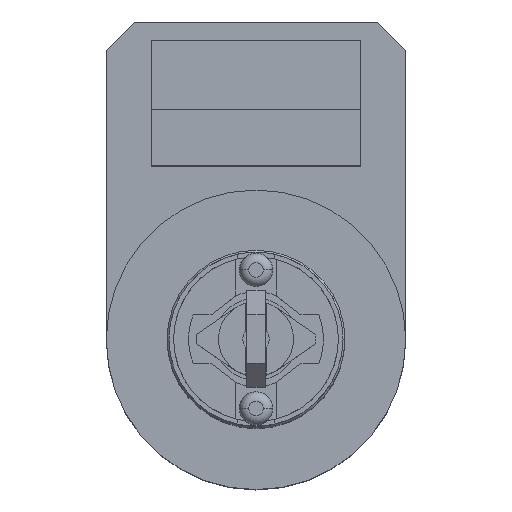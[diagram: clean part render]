
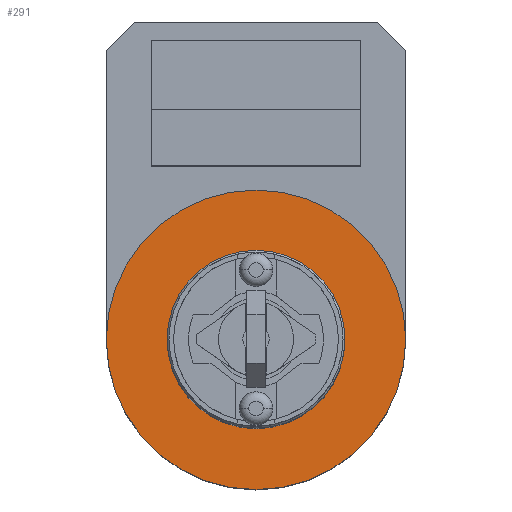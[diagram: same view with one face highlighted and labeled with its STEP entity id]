
A CAD part, top view. The second image highlights one B-rep face of the part: STEP entity #291.
In plain terms, the highlighted planar face has unit normal (0, 0, 1).
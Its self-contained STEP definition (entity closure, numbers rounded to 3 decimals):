
#47 = ORIENTED_EDGE ( 'NONE', *, *, #1140, .T. ) ;
#51 = FACE_OUTER_BOUND ( 'NONE', #381, .T. ) ;
#109 = DIRECTION ( 'NONE',  ( -1., 0., 0. ) ) ;
#162 = CARTESIAN_POINT ( 'NONE',  ( 0., 0., 10.9 ) ) ;
#228 = DIRECTION ( 'NONE',  ( -1., 0., 0. ) ) ;
#258 = CARTESIAN_POINT ( 'NONE',  ( 0., 0., 10.9 ) ) ;
#291 = ADVANCED_FACE ( 'NONE', ( #51, #1902 ), #3467, .F. ) ;
#381 = EDGE_LOOP ( 'NONE', ( #1550, #1818 ) ) ;
#523 = DIRECTION ( 'NONE',  ( 0., 0., -1. ) ) ;
#545 = CIRCLE ( 'NONE', #3211, 4.75 ) ;
#903 = VERTEX_POINT ( 'NONE', #3505 ) ;
#950 = CIRCLE ( 'NONE', #2946, 8. ) ;
#979 = EDGE_LOOP ( 'NONE', ( #47, #3787 ) ) ;
#1140 = EDGE_CURVE ( 'NONE', #1346, #903, #2446, .T. ) ;
#1197 = CARTESIAN_POINT ( 'NONE',  ( 0., 0., 10.9 ) ) ;
#1346 = VERTEX_POINT ( 'NONE', #1701 ) ;
#1412 = DIRECTION ( 'NONE',  ( 0., 0., -1. ) ) ;
#1420 = DIRECTION ( 'NONE',  ( -1., 0., 0. ) ) ;
#1511 = EDGE_CURVE ( 'NONE', #1676, #2901, #2451, .T. ) ;
#1512 = AXIS2_PLACEMENT_3D ( 'NONE', #2434, #3015, #109 ) ;
#1550 = ORIENTED_EDGE ( 'NONE', *, *, #1511, .F. ) ;
#1663 = EDGE_CURVE ( 'NONE', #903, #1346, #545, .T. ) ;
#1676 = VERTEX_POINT ( 'NONE', #2914 ) ;
#1701 = CARTESIAN_POINT ( 'NONE',  ( -4.75, 0., 10.9 ) ) ;
#1727 = DIRECTION ( 'NONE',  ( -1., 0., 0. ) ) ;
#1740 = CARTESIAN_POINT ( 'NONE',  ( 0., 8., 10.9 ) ) ;
#1818 = ORIENTED_EDGE ( 'NONE', *, *, #3257, .F. ) ;
#1902 = FACE_BOUND ( 'NONE', #979, .T. ) ;
#2102 = CARTESIAN_POINT ( 'NONE',  ( 8., 0., 10.9 ) ) ;
#2177 = DIRECTION ( 'NONE',  ( -1., 0., 0. ) ) ;
#2199 = DIRECTION ( 'NONE',  ( 0., 0., -1. ) ) ;
#2385 = AXIS2_PLACEMENT_3D ( 'NONE', #162, #2199, #2177 ) ;
#2434 = CARTESIAN_POINT ( 'NONE',  ( 0., 0., 10.9 ) ) ;
#2437 = AXIS2_PLACEMENT_3D ( 'NONE', #1740, #3799, #228 ) ;
#2446 = CIRCLE ( 'NONE', #1512, 4.75 ) ;
#2451 = CIRCLE ( 'NONE', #2385, 8. ) ;
#2901 = VERTEX_POINT ( 'NONE', #2102 ) ;
#2914 = CARTESIAN_POINT ( 'NONE',  ( -8., 0., 10.9 ) ) ;
#2946 = AXIS2_PLACEMENT_3D ( 'NONE', #1197, #1412, #1727 ) ;
#3015 = DIRECTION ( 'NONE',  ( 0., 0., -1. ) ) ;
#3211 = AXIS2_PLACEMENT_3D ( 'NONE', #258, #523, #1420 ) ;
#3257 = EDGE_CURVE ( 'NONE', #2901, #1676, #950, .T. ) ;
#3467 = PLANE ( 'NONE',  #2437 ) ;
#3505 = CARTESIAN_POINT ( 'NONE',  ( 4.75, 0., 10.9 ) ) ;
#3787 = ORIENTED_EDGE ( 'NONE', *, *, #1663, .T. ) ;
#3799 = DIRECTION ( 'NONE',  ( 0., 0., -1. ) ) ;
